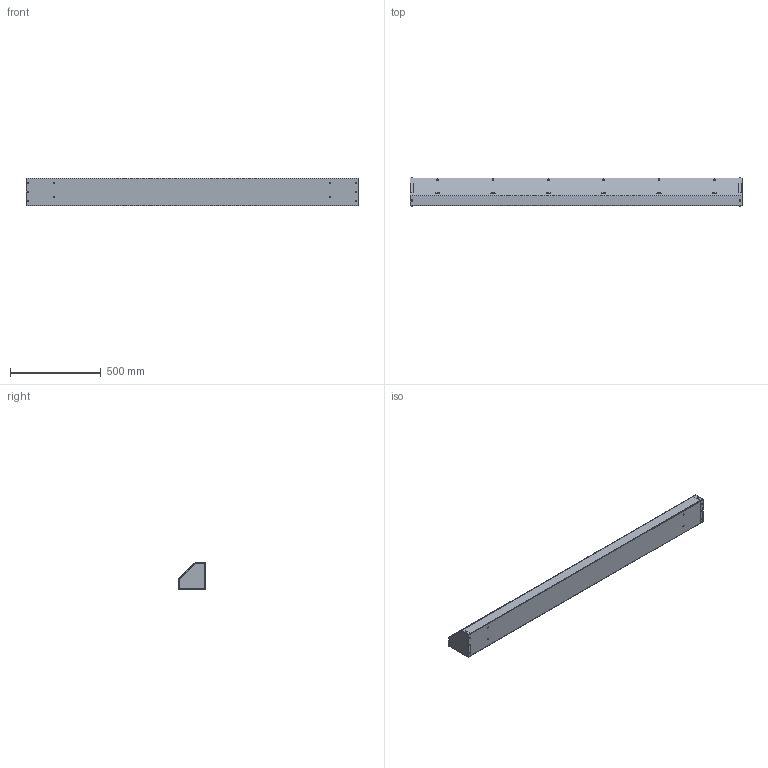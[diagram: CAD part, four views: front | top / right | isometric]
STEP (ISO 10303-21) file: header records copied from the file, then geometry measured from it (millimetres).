
FILE_DESCRIPTION (( 'STEP AP203' ), '1' );
FILE_NAME ('at6672.STEP', '2017-10-03T16:25:05', ( '' ), ( '' ), 'SwSTEP 2.0', 'SolidWorks 2014', '' );
FILE_SCHEMA (( 'CONFIG_CONTROL_DESIGN' ));
Length unit declared in the file: inch
Products named in the file (7): 89159130; 87780048; at6672; 89159107; 89159121; 16111002_INSTALLED .144 THICKNESS; 89159151
Assembly tree (22 placements, depth 3):
  at6672
    89159151
      89159107
      89159121  x2
      16111002_INSTALLED .144 THICKNESS  x16
    89159130
    87780048
Bounding box: 1828.8 x 154.23 x 154.23 mm (x, y, z)
Volume: 1554598.5 mm3; surface area: 2250533 mm2
Topology: 21 solids, 21 shells, 904 faces, 2180 edges, 1328 vertices
Faces by surface type: plane 356, cylinder 348, cone 96, bspline 80, torus 24
Entity records: 17765 total; most frequent: CARTESIAN_POINT 3296, DIRECTION 2826, ORIENTED_EDGE 2738, EDGE_CURVE 1369, AXIS2_PLACEMENT_3D 967, LINE 892, VECTOR 892, VERTEX_POINT 867
